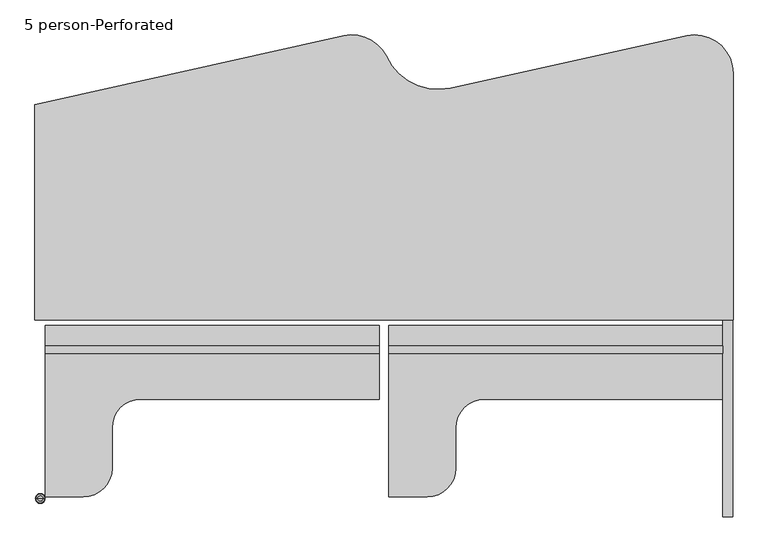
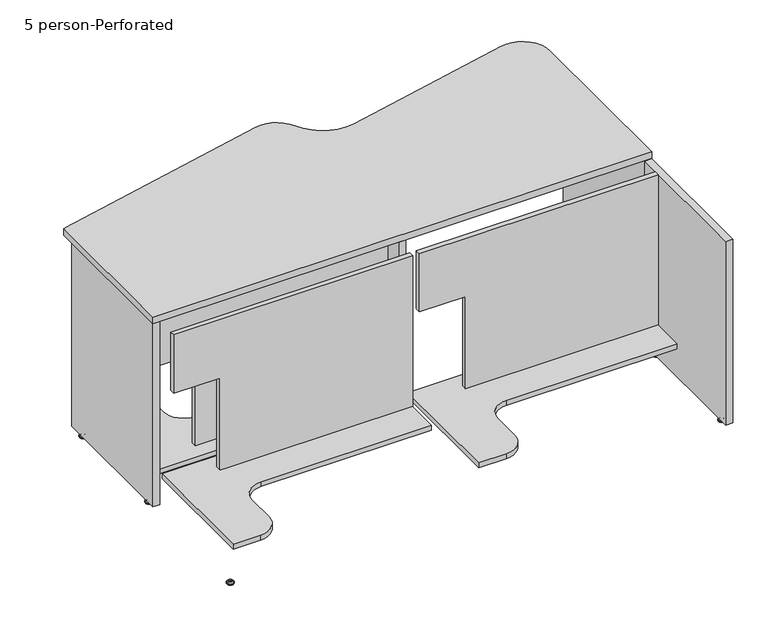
"""IFC4 building model written with IfcOpenShell, lengths in millimetres: furniture geometry, Nova Solutions - Collaboration Table - Keystone_4-5 person : 5 person-Perforated."""

from ifc_helpers import new_model, si_unit, point, frame, frame_2d, origin, place, context, project, spatial, polyline, circle_curve, ellipse_curve, trimmed, segment, composite_curve, outline, extrude, source, transform, mapped, element, save
from ifc_brep_helpers import plane_surface, cylinder_surface, revolved_surface, advanced_brep


def furniture_5_person_perforated_196aff89(model_context):
    return source(origin(), model_context, "Body", "SolidModel", [
        advanced_brep(
        [(916.6776506, 474.3309375, 11.1125), (910.0, 474.3309375, 11.1125), (903.3223494, 474.3309375, 11.1125), (916.6776506, 474.3309375, 9.525), (903.3223494, 474.3309375, 9.525), (921.8855135, 474.3309375, 4.7748687), (898.1144865, 474.3309375, 4.7748687), (922.7466506, 474.3309375, 3.989419), (897.2533494, 474.3309375, 3.989419), (922.7466506, 474.3309375, 3.175), (897.2533494, 474.3309375, 3.175), (921.8959119, 474.3309375, 0.0), (898.1040881, 474.3309375, 0.0), (910.0, 474.3309375, 0.0)],
        [
            (0, 1),
            (1, 2),
            (2, 0, circle_curve(frame((910.0, 474.3309375, 11.1125), z_axis=(0.0, 0.0, 1.0), x_axis=(-1.0, 0.0, 0.0)), 6.6776506)),
            (0, 2, circle_curve(frame((910.0, 474.3309375, 11.1125), z_axis=(0.0, 0.0, 1.0), x_axis=(-1.0, 0.0, 0.0)), 6.6776506)),
            (3, 0),
            (2, 4),
            (4, 3, circle_curve(frame((910.0, 474.3309375, 9.525), z_axis=(0.0, 0.0, 1.0), x_axis=(-1.0, 0.0, 0.0)), 6.6776506)),
            (3, 4, circle_curve(frame((910.0, 474.3309375, 9.525), z_axis=(0.0, 0.0, 1.0), x_axis=(-1.0, 0.0, 0.0)), 6.6776506)),
            (5, 3, circle_curve(frame((922.9320627, 474.3309375, 11.1521822), z_axis=(0.0, 1.0, 0.0), x_axis=(-1.0, 0.0, 0.0)), 6.462615)),
            (4, 6, circle_curve(frame((897.0679373, 474.3309375, 11.1521822), z_axis=(0.0, 1.0, 0.0), x_axis=(1.0, 0.0, 0.0)), 6.462615)),
            (6, 5, circle_curve(frame((910.0, 474.3309375, 4.7748687), z_axis=(0.0, 0.0, 1.0), x_axis=(-1.0, 0.0, 0.0)), 11.8855135)),
            (5, 6, circle_curve(frame((910.0, 474.3309375, 4.7748687), z_axis=(0.0, 0.0, 1.0), x_axis=(-1.0, 0.0, 0.0)), 11.8855135)),
            (7, 5, circle_curve(frame((921.7124632, 474.3309375, 3.7203591), z_axis=(0.0, -1.0, 0.0), x_axis=(-1.0, 0.0, 0.0)), 1.0686145)),
            (6, 8, circle_curve(frame((898.2875368, 474.3309375, 3.7203591), z_axis=(0.0, -1.0, 0.0), x_axis=(1.0, 0.0, 0.0)), 1.0686145)),
            (8, 7, circle_curve(frame((910.0, 474.3309375, 3.989419), z_axis=(0.0, 0.0, 1.0), x_axis=(-1.0, 0.0, 0.0)), 12.7466506)),
            (7, 8, circle_curve(frame((910.0, 474.3309375, 3.989419), z_axis=(0.0, 0.0, 1.0), x_axis=(-1.0, 0.0, 0.0)), 12.7466506)),
            (9, 7),
            (8, 10),
            (10, 9, circle_curve(frame((910.0, 474.3309375, 3.175), z_axis=(0.0, 0.0, 1.0), x_axis=(-1.0, 0.0, 0.0)), 12.7466506)),
            (9, 10, circle_curve(frame((910.0, 474.3309375, 3.175), z_axis=(0.0, 0.0, 1.0), x_axis=(-1.0, 0.0, 0.0)), 12.7466506)),
            (11, 9),
            (10, 12),
            (12, 11, circle_curve(frame((910.0, 474.3309375, 0.0), z_axis=(0.0, 0.0, 1.0), x_axis=(-1.0, 0.0, 0.0)), 11.8959119)),
            (11, 12, circle_curve(frame((910.0, 474.3309375, 0.0), z_axis=(0.0, 0.0, 1.0), x_axis=(-1.0, 0.0, 0.0)), 11.8959119)),
            (13, 11),
            (12, 13),
        ],
        [
            plane_surface(frame((910.0, 474.3309375, 11.1125), z_axis=(0.0, 0.0, 1.0), x_axis=(-1.0, 0.0, 0.0))),
            cylinder_surface(frame((910.0, 474.3309375, 43.2095994), z_axis=(0.0, 0.0, -1.0), x_axis=(-1.0, 0.0, 0.0)), 6.6776506),
            revolved_surface(trimmed(ellipse_curve(frame((897.0679373, 474.3309375, 11.1521822), z_axis=(0.0, 1.0, 0.0), x_axis=(1.0, 0.0, 0.0)), 6.462615, 6.462615), [point((903.3223494, 474.3309375, 9.525))], [point((898.1144865, 474.3309375, 4.7748687))], True, "CARTESIAN"), (910.0, 474.3309375, 43.2095994), (0.0, 0.0, -1.0)),
            revolved_surface(trimmed(ellipse_curve(frame((898.2875368, 474.3309375, 3.7203591), z_axis=(0.0, -1.0, 0.0), x_axis=(1.0, 0.0, 0.0)), 1.0686145, 1.0686145), [point((898.1144865, 474.3309375, 4.7748687))], [point((897.2533494, 474.3309375, 3.989419))], True, "CARTESIAN"), (910.0, 474.3309375, 43.2095994), (0.0, 0.0, -1.0)),
            cylinder_surface(frame((910.0, 474.3309375, 43.2095994), z_axis=(0.0, 0.0, -1.0), x_axis=(-1.0, 0.0, 0.0)), 12.7466506),
            revolved_surface(polyline([(897.2533494, 474.3309375, 3.175), (898.1040881, 474.3309375, 0.0)]), (910.0, 474.3309375, 43.2095994), (0.0, 0.0, -1.0)),
            plane_surface(frame((910.0, 474.3309375, 0.0), z_axis=(0.0, 0.0, -1.0), x_axis=(-1.0, 0.0, 0.0))),
        ],
        [
            (0, [[1, 2, 3]]),
            (0, [[-2, -1, 4]]),
            (1, [[5, -3, 6, 7]]),
            (1, [[-6, -4, -5, 8]]),
            (2, [[9, -7, 10, 11]]),
            (2, [[-10, -8, -9, 12]]),
            (3, [[13, -11, 14, 15]]),
            (3, [[-14, -12, -13, 16]]),
            (4, [[17, -15, 18, 19]]),
            (4, [[-18, -16, -17, 20]]),
            (5, [[21, -19, 22, 23]]),
            (5, [[-22, -20, -21, 24]]),
            (6, [[25, -23, 26]]),
            (6, [[-26, -24, -25]]),
        ],
    ),
        advanced_brep(
        [(916.6776506, 50.3590625, 11.1125), (910.0, 50.3590625, 11.1125), (903.3223494, 50.3590625, 11.1125), (916.6776506, 50.3590625, 9.525), (903.3223494, 50.3590625, 9.525), (921.8855135, 50.3590625, 4.7748687), (898.1144865, 50.3590625, 4.7748687), (922.7466506, 50.3590625, 3.989419), (897.2533494, 50.3590625, 3.989419), (922.7466506, 50.3590625, 3.175), (897.2533494, 50.3590625, 3.175), (921.8959119, 50.3590625, 0.0), (898.1040881, 50.3590625, 0.0), (910.0, 50.3590625, 0.0)],
        [
            (0, 1),
            (1, 2),
            (2, 0, circle_curve(frame((910.0, 50.3590625, 11.1125), z_axis=(0.0, 0.0, 1.0), x_axis=(-1.0, 0.0, 0.0)), 6.6776506)),
            (0, 2, circle_curve(frame((910.0, 50.3590625, 11.1125), z_axis=(0.0, 0.0, 1.0), x_axis=(-1.0, 0.0, 0.0)), 6.6776506)),
            (3, 0),
            (2, 4),
            (4, 3, circle_curve(frame((910.0, 50.3590625, 9.525), z_axis=(0.0, 0.0, 1.0), x_axis=(-1.0, 0.0, 0.0)), 6.6776506)),
            (3, 4, circle_curve(frame((910.0, 50.3590625, 9.525), z_axis=(0.0, 0.0, 1.0), x_axis=(-1.0, 0.0, 0.0)), 6.6776506)),
            (5, 3, circle_curve(frame((922.9320627, 50.3590625, 11.1521822), z_axis=(0.0, 1.0, 0.0), x_axis=(-1.0, 0.0, 0.0)), 6.462615)),
            (4, 6, circle_curve(frame((897.0679373, 50.3590625, 11.1521822), z_axis=(0.0, 1.0, 0.0), x_axis=(1.0, 0.0, 0.0)), 6.462615)),
            (6, 5, circle_curve(frame((910.0, 50.3590625, 4.7748687), z_axis=(0.0, 0.0, 1.0), x_axis=(-1.0, 0.0, 0.0)), 11.8855135)),
            (5, 6, circle_curve(frame((910.0, 50.3590625, 4.7748687), z_axis=(0.0, 0.0, 1.0), x_axis=(-1.0, 0.0, 0.0)), 11.8855135)),
            (7, 5, circle_curve(frame((921.7124632, 50.3590625, 3.7203591), z_axis=(0.0, -1.0, 0.0), x_axis=(-1.0, 0.0, 0.0)), 1.0686145)),
            (6, 8, circle_curve(frame((898.2875368, 50.3590625, 3.7203591), z_axis=(0.0, -1.0, 0.0), x_axis=(1.0, 0.0, 0.0)), 1.0686145)),
            (8, 7, circle_curve(frame((910.0, 50.3590625, 3.989419), z_axis=(0.0, 0.0, 1.0), x_axis=(-1.0, 0.0, 0.0)), 12.7466506)),
            (7, 8, circle_curve(frame((910.0, 50.3590625, 3.989419), z_axis=(0.0, 0.0, 1.0), x_axis=(-1.0, 0.0, 0.0)), 12.7466506)),
            (9, 7),
            (8, 10),
            (10, 9, circle_curve(frame((910.0, 50.3590625, 3.175), z_axis=(0.0, 0.0, 1.0), x_axis=(-1.0, 0.0, 0.0)), 12.7466506)),
            (9, 10, circle_curve(frame((910.0, 50.3590625, 3.175), z_axis=(0.0, 0.0, 1.0), x_axis=(-1.0, 0.0, 0.0)), 12.7466506)),
            (11, 9),
            (10, 12),
            (12, 11, circle_curve(frame((910.0, 50.3590625, 0.0), z_axis=(0.0, 0.0, 1.0), x_axis=(-1.0, 0.0, 0.0)), 11.8959119)),
            (11, 12, circle_curve(frame((910.0, 50.3590625, 0.0), z_axis=(0.0, 0.0, 1.0), x_axis=(-1.0, 0.0, 0.0)), 11.8959119)),
            (13, 11),
            (12, 13),
        ],
        [
            plane_surface(frame((910.0, 50.3590625, 11.1125), z_axis=(0.0, 0.0, 1.0), x_axis=(-1.0, 0.0, 0.0))),
            cylinder_surface(frame((910.0, 50.3590625, 43.2095994), z_axis=(0.0, 0.0, -1.0), x_axis=(-1.0, 0.0, 0.0)), 6.6776506),
            revolved_surface(trimmed(ellipse_curve(frame((897.0679373, 50.3590625, 11.1521822), z_axis=(0.0, 1.0, 0.0), x_axis=(1.0, 0.0, 0.0)), 6.462615, 6.462615), [point((903.3223494, 50.3590625, 9.525))], [point((898.1144865, 50.3590625, 4.7748687))], True, "CARTESIAN"), (910.0, 50.3590625, 43.2095994), (0.0, 0.0, -1.0)),
            revolved_surface(trimmed(ellipse_curve(frame((898.2875368, 50.3590625, 3.7203591), z_axis=(0.0, -1.0, 0.0), x_axis=(1.0, 0.0, 0.0)), 1.0686145, 1.0686145), [point((898.1144865, 50.3590625, 4.7748687))], [point((897.2533494, 50.3590625, 3.989419))], True, "CARTESIAN"), (910.0, 50.3590625, 43.2095994), (0.0, 0.0, -1.0)),
            cylinder_surface(frame((910.0, 50.3590625, 43.2095994), z_axis=(0.0, 0.0, -1.0), x_axis=(-1.0, 0.0, 0.0)), 12.7466506),
            revolved_surface(polyline([(897.2533494, 50.3590625, 3.175), (898.1040881, 50.3590625, 0.0)]), (910.0, 50.3590625, 43.2095994), (0.0, 0.0, -1.0)),
            plane_surface(frame((910.0, 50.3590625, 0.0), z_axis=(0.0, 0.0, -1.0), x_axis=(-1.0, 0.0, 0.0))),
        ],
        [
            (0, [[1, 2, 3]]),
            (0, [[-2, -1, 4]]),
            (1, [[5, -3, 6, 7]]),
            (1, [[-6, -4, -5, 8]]),
            (2, [[9, -7, 10, 11]]),
            (2, [[-10, -8, -9, 12]]),
            (3, [[13, -11, 14, 15]]),
            (3, [[-14, -12, -13, 16]]),
            (4, [[17, -15, 18, 19]]),
            (4, [[-18, -16, -17, 20]]),
            (5, [[21, -19, 22, 23]]),
            (5, [[-22, -20, -21, 24]]),
            (6, [[25, -23, 26]]),
            (6, [[-26, -24, -25]]),
        ],
    ),
        extrude(outline(polyline([(922.85, 1.345), (897.15, 1.345), (897.15, 523.345), (922.85, 523.345), (922.85, 1.345)])), frame((0.0, 0.0, 15.6), z_axis=(0.0, 0.0, 1.0), x_axis=(1.0, 0.0, 0.0)), (0.0, 0.0, 1.0), 720.7),
        extrude(outline(polyline([(736.3, -15.65), (736.3, -902.85), (507.4, -902.85), (507.4, -731.85), (145.5, -731.85), (145.5, -15.65), (736.3, -15.65)])), frame((0.0, 69.345, 0.0), z_axis=(0.0, 1.0, 0.0), x_axis=(0.0, 0.0, 1.0)), (0.0, 0.0, 1.0), 19.2),
        extrude(outline(composite_curve([segment(polyline([(-902.85, 469.9075), (-801.25, 469.9075)]), True, "CONTINUOUS"), segment(trimmed(circle_curve(frame_2d((-801.25, 393.7075)), 76.2), [point((-801.25, 469.9075))], [point((-725.05, 393.7075))], False, "CARTESIAN"), True, "CONTINUOUS"), segment(polyline([(-725.05, 393.7075), (-725.05, 286.545)]), True, "CONTINUOUS"), segment(trimmed(circle_curve(frame_2d((-648.85, 286.545)), 76.2), [point((-725.05, 286.545))], [point((-648.85, 210.345))], True, "CARTESIAN"), True, "CONTINUOUS"), segment(polyline([(-648.85, 210.345), (-15.65, 210.345), (-15.65, 14.045), (-902.85, 14.045), (-902.85, 469.9075)]), True, "CONTINUOUS")], self_intersect=False)), frame((0.0, 0.0, 126.3), z_axis=(0.0, 0.0, 1.0), x_axis=(1.0, 0.0, 0.0)), (0.0, 0.0, 1.0), 19.2),
        advanced_brep(
        [(-922.3776506, 474.3309375, 11.1125), (-909.0223494, 474.3309375, 11.1125), (-915.7, 474.3309375, 11.1125), (-922.3776506, 474.3309375, 9.525), (-909.0223494, 474.3309375, 9.525), (-927.5855135, 474.3309375, 4.7748687), (-903.8144865, 474.3309375, 4.7748687), (-928.4466506, 474.3309375, 3.989419), (-902.9533494, 474.3309375, 3.989419), (-928.4466506, 474.3309375, 3.175), (-902.9533494, 474.3309375, 3.175), (-927.5959119, 474.3309375, 0.0), (-903.8040881, 474.3309375, 0.0), (-915.7, 474.3309375, 0.0)],
        [
            (0, 1, circle_curve(frame((-915.7, 474.3309375, 11.1125), z_axis=(0.0, 0.0, 1.0), x_axis=(1.0, 0.0, 0.0)), 6.6776506)),
            (1, 2),
            (2, 0),
            (1, 0, circle_curve(frame((-915.7, 474.3309375, 11.1125), z_axis=(0.0, 0.0, 1.0), x_axis=(1.0, 0.0, 0.0)), 6.6776506)),
            (3, 4, circle_curve(frame((-915.7, 474.3309375, 9.525), z_axis=(0.0, 0.0, 1.0), x_axis=(1.0, 0.0, 0.0)), 6.6776506)),
            (4, 1),
            (0, 3),
            (4, 3, circle_curve(frame((-915.7, 474.3309375, 9.525), z_axis=(0.0, 0.0, 1.0), x_axis=(1.0, 0.0, 0.0)), 6.6776506)),
            (5, 6, circle_curve(frame((-915.7, 474.3309375, 4.7748687), z_axis=(0.0, 0.0, 1.0), x_axis=(1.0, 0.0, 0.0)), 11.8855135)),
            (6, 4, circle_curve(frame((-902.7679373, 474.3309375, 11.1521822), z_axis=(0.0, 1.0, 0.0), x_axis=(-1.0, 0.0, 0.0)), 6.462615)),
            (3, 5, circle_curve(frame((-928.6320627, 474.3309375, 11.1521822), z_axis=(0.0, 1.0, 0.0), x_axis=(1.0, 0.0, 0.0)), 6.462615)),
            (6, 5, circle_curve(frame((-915.7, 474.3309375, 4.7748687), z_axis=(0.0, 0.0, 1.0), x_axis=(1.0, 0.0, 0.0)), 11.8855135)),
            (7, 8, circle_curve(frame((-915.7, 474.3309375, 3.989419), z_axis=(0.0, 0.0, 1.0), x_axis=(1.0, 0.0, 0.0)), 12.7466506)),
            (8, 6, circle_curve(frame((-903.9875368, 474.3309375, 3.7203591), z_axis=(0.0, -1.0, 0.0), x_axis=(-1.0, 0.0, 0.0)), 1.0686145)),
            (5, 7, circle_curve(frame((-927.4124632, 474.3309375, 3.7203591), z_axis=(0.0, -1.0, 0.0), x_axis=(1.0, 0.0, 0.0)), 1.0686145)),
            (8, 7, circle_curve(frame((-915.7, 474.3309375, 3.989419), z_axis=(0.0, 0.0, 1.0), x_axis=(1.0, 0.0, 0.0)), 12.7466506)),
            (9, 10, circle_curve(frame((-915.7, 474.3309375, 3.175), z_axis=(0.0, 0.0, 1.0), x_axis=(1.0, 0.0, 0.0)), 12.7466506)),
            (10, 8),
            (7, 9),
            (10, 9, circle_curve(frame((-915.7, 474.3309375, 3.175), z_axis=(0.0, 0.0, 1.0), x_axis=(1.0, 0.0, 0.0)), 12.7466506)),
            (11, 12, circle_curve(frame((-915.7, 474.3309375, 0.0), z_axis=(0.0, 0.0, 1.0), x_axis=(1.0, 0.0, 0.0)), 11.8959119)),
            (12, 10),
            (9, 11),
            (12, 11, circle_curve(frame((-915.7, 474.3309375, 0.0), z_axis=(0.0, 0.0, 1.0), x_axis=(1.0, 0.0, 0.0)), 11.8959119)),
            (13, 12),
            (11, 13),
        ],
        [
            plane_surface(frame((-915.7, 474.3309375, 11.1125), z_axis=(0.0, 0.0, 1.0), x_axis=(1.0, 0.0, 0.0))),
            cylinder_surface(frame((-915.7, 474.3309375, 43.2095994), z_axis=(0.0, 0.0, -1.0), x_axis=(1.0, 0.0, 0.0)), 6.6776506),
            revolved_surface(trimmed(ellipse_curve(frame((-902.7679373, 474.3309375, 11.1521822), z_axis=(0.0, -1.0, 0.0), x_axis=(-1.0, 0.0, 0.0)), 6.462615, 6.462615), [point((-909.0223494, 474.3309375, 9.525))], [point((-903.8144865, 474.3309375, 4.7748687))], True, "CARTESIAN"), (-915.7, 474.3309375, 43.2095994), (0.0, 0.0, -1.0)),
            revolved_surface(trimmed(ellipse_curve(frame((-903.9875368, 474.3309375, 3.7203591), z_axis=(0.0, 1.0, 0.0), x_axis=(-1.0, 0.0, 0.0)), 1.0686145, 1.0686145), [point((-903.8144865, 474.3309375, 4.7748687))], [point((-902.9533494, 474.3309375, 3.989419))], True, "CARTESIAN"), (-915.7, 474.3309375, 43.2095994), (0.0, 0.0, -1.0)),
            cylinder_surface(frame((-915.7, 474.3309375, 43.2095994), z_axis=(0.0, 0.0, -1.0), x_axis=(1.0, 0.0, 0.0)), 12.7466506),
            revolved_surface(polyline([(-902.9533494, 474.3309375, 3.175), (-903.8040881, 474.3309375, 0.0)]), (-915.7, 474.3309375, 43.2095994), (0.0, 0.0, -1.0)),
            plane_surface(frame((-915.7, 474.3309375, 0.0), z_axis=(0.0, 0.0, -1.0), x_axis=(1.0, 0.0, 0.0))),
        ],
        [
            (0, [[1, 2, 3]]),
            (0, [[4, -3, -2]]),
            (1, [[5, 6, -1, 7]]),
            (1, [[8, -7, -4, -6]]),
            (2, [[9, 10, -5, 11]]),
            (2, [[12, -11, -8, -10]]),
            (3, [[13, 14, -9, 15]]),
            (3, [[16, -15, -12, -14]]),
            (4, [[17, 18, -13, 19]]),
            (4, [[20, -19, -16, -18]]),
            (5, [[21, 22, -17, 23]]),
            (5, [[24, -23, -20, -22]]),
            (6, [[25, -21, 26]]),
            (6, [[-26, -24, -25]]),
        ],
    ),
        advanced_brep(
        [(-922.3776506, 50.3590625, 11.1125), (-909.0223494, 50.3590625, 11.1125), (-915.7, 50.3590625, 11.1125), (-922.3776506, 50.3590625, 9.525), (-909.0223494, 50.3590625, 9.525), (-927.5855135, 50.3590625, 4.7748687), (-903.8144865, 50.3590625, 4.7748687), (-928.4466506, 50.3590625, 3.989419), (-902.9533494, 50.3590625, 3.989419), (-928.4466506, 50.3590625, 3.175), (-902.9533494, 50.3590625, 3.175), (-927.5959119, 50.3590625, 0.0), (-903.8040881, 50.3590625, 0.0), (-915.7, 50.3590625, 0.0)],
        [
            (0, 1, circle_curve(frame((-915.7, 50.3590625, 11.1125), z_axis=(0.0, 0.0, 1.0), x_axis=(1.0, 0.0, 0.0)), 6.6776506)),
            (1, 2),
            (2, 0),
            (1, 0, circle_curve(frame((-915.7, 50.3590625, 11.1125), z_axis=(0.0, 0.0, 1.0), x_axis=(1.0, 0.0, 0.0)), 6.6776506)),
            (3, 4, circle_curve(frame((-915.7, 50.3590625, 9.525), z_axis=(0.0, 0.0, 1.0), x_axis=(1.0, 0.0, 0.0)), 6.6776506)),
            (4, 1),
            (0, 3),
            (4, 3, circle_curve(frame((-915.7, 50.3590625, 9.525), z_axis=(0.0, 0.0, 1.0), x_axis=(1.0, 0.0, 0.0)), 6.6776506)),
            (5, 6, circle_curve(frame((-915.7, 50.3590625, 4.7748687), z_axis=(0.0, 0.0, 1.0), x_axis=(1.0, 0.0, 0.0)), 11.8855135)),
            (6, 4, circle_curve(frame((-902.7679373, 50.3590625, 11.1521822), z_axis=(0.0, 1.0, 0.0), x_axis=(-1.0, 0.0, 0.0)), 6.462615)),
            (3, 5, circle_curve(frame((-928.6320627, 50.3590625, 11.1521822), z_axis=(0.0, 1.0, 0.0), x_axis=(1.0, 0.0, 0.0)), 6.462615)),
            (6, 5, circle_curve(frame((-915.7, 50.3590625, 4.7748687), z_axis=(0.0, 0.0, 1.0), x_axis=(1.0, 0.0, 0.0)), 11.8855135)),
            (7, 8, circle_curve(frame((-915.7, 50.3590625, 3.989419), z_axis=(0.0, 0.0, 1.0), x_axis=(1.0, 0.0, 0.0)), 12.7466506)),
            (8, 6, circle_curve(frame((-903.9875368, 50.3590625, 3.7203591), z_axis=(0.0, -1.0, 0.0), x_axis=(-1.0, 0.0, 0.0)), 1.0686145)),
            (5, 7, circle_curve(frame((-927.4124632, 50.3590625, 3.7203591), z_axis=(0.0, -1.0, 0.0), x_axis=(1.0, 0.0, 0.0)), 1.0686145)),
            (8, 7, circle_curve(frame((-915.7, 50.3590625, 3.989419), z_axis=(0.0, 0.0, 1.0), x_axis=(1.0, 0.0, 0.0)), 12.7466506)),
            (9, 10, circle_curve(frame((-915.7, 50.3590625, 3.175), z_axis=(0.0, 0.0, 1.0), x_axis=(1.0, 0.0, 0.0)), 12.7466506)),
            (10, 8),
            (7, 9),
            (10, 9, circle_curve(frame((-915.7, 50.3590625, 3.175), z_axis=(0.0, 0.0, 1.0), x_axis=(1.0, 0.0, 0.0)), 12.7466506)),
            (11, 12, circle_curve(frame((-915.7, 50.3590625, 0.0), z_axis=(0.0, 0.0, 1.0), x_axis=(1.0, 0.0, 0.0)), 11.8959119)),
            (12, 10),
            (9, 11),
            (12, 11, circle_curve(frame((-915.7, 50.3590625, 0.0), z_axis=(0.0, 0.0, 1.0), x_axis=(1.0, 0.0, 0.0)), 11.8959119)),
            (13, 12),
            (11, 13),
        ],
        [
            plane_surface(frame((-915.7, 50.3590625, 11.1125), z_axis=(0.0, 0.0, 1.0), x_axis=(1.0, 0.0, 0.0))),
            cylinder_surface(frame((-915.7, 50.3590625, 43.2095994), z_axis=(0.0, 0.0, -1.0), x_axis=(1.0, 0.0, 0.0)), 6.6776506),
            revolved_surface(trimmed(ellipse_curve(frame((-902.7679373, 50.3590625, 11.1521822), z_axis=(0.0, -1.0, 0.0), x_axis=(-1.0, 0.0, 0.0)), 6.462615, 6.462615), [point((-909.0223494, 50.3590625, 9.525))], [point((-903.8144865, 50.3590625, 4.7748687))], True, "CARTESIAN"), (-915.7, 50.3590625, 43.2095994), (0.0, 0.0, -1.0)),
            revolved_surface(trimmed(ellipse_curve(frame((-903.9875368, 50.3590625, 3.7203591), z_axis=(0.0, 1.0, 0.0), x_axis=(-1.0, 0.0, 0.0)), 1.0686145, 1.0686145), [point((-903.8144865, 50.3590625, 4.7748687))], [point((-902.9533494, 50.3590625, 3.989419))], True, "CARTESIAN"), (-915.7, 50.3590625, 43.2095994), (0.0, 0.0, -1.0)),
            cylinder_surface(frame((-915.7, 50.3590625, 43.2095994), z_axis=(0.0, 0.0, -1.0), x_axis=(1.0, 0.0, 0.0)), 12.7466506),
            revolved_surface(polyline([(-902.9533494, 50.3590625, 3.175), (-903.8040881, 50.3590625, 0.0)]), (-915.7, 50.3590625, 43.2095994), (0.0, 0.0, -1.0)),
            plane_surface(frame((-915.7, 50.3590625, 0.0), z_axis=(0.0, 0.0, -1.0), x_axis=(1.0, 0.0, 0.0))),
        ],
        [
            (0, [[1, 2, 3]]),
            (0, [[4, -3, -2]]),
            (1, [[5, 6, -1, 7]]),
            (1, [[8, -7, -4, -6]]),
            (2, [[9, 10, -5, 11]]),
            (2, [[12, -11, -8, -10]]),
            (3, [[13, 14, -9, 15]]),
            (3, [[16, -15, -12, -14]]),
            (4, [[17, 18, -13, 19]]),
            (4, [[20, -19, -16, -18]]),
            (5, [[21, 22, -17, 23]]),
            (5, [[24, -23, -20, -22]]),
            (6, [[25, -21, 26]]),
            (6, [[-26, -24, -25]]),
        ],
    ),
        extrude(outline(polyline([(-928.55, 1.345), (-928.55, 523.345), (-902.85, 523.345), (-902.85, 1.345), (-928.55, 1.345)])), frame((0.0, 0.0, 15.6), z_axis=(0.0, 0.0, 1.0), x_axis=(1.0, 0.0, 0.0)), (0.0, 0.0, 1.0), 720.7),
        advanced_brep(
        [(3.8776506, 474.3309375, 11.1125), (-2.8, 474.3309375, 11.1125), (-9.4776506, 474.3309375, 11.1125), (3.8776506, 474.3309375, 9.525), (-9.4776506, 474.3309375, 9.525), (9.0855135, 474.3309375, 4.7748687), (-14.6855135, 474.3309375, 4.7748687), (9.9466506, 474.3309375, 3.989419), (-15.5466506, 474.3309375, 3.989419), (9.9466506, 474.3309375, 3.175), (-15.5466506, 474.3309375, 3.175), (9.0959119, 474.3309375, 0.0), (-14.6959119, 474.3309375, 0.0), (-2.8, 474.3309375, 0.0)],
        [
            (0, 1),
            (1, 2),
            (2, 0, circle_curve(frame((-2.8, 474.3309375, 11.1125), z_axis=(0.0, 0.0, 1.0), x_axis=(-1.0, 0.0, 0.0)), 6.6776506)),
            (0, 2, circle_curve(frame((-2.8, 474.3309375, 11.1125), z_axis=(0.0, 0.0, 1.0), x_axis=(-1.0, 0.0, 0.0)), 6.6776506)),
            (3, 0),
            (2, 4),
            (4, 3, circle_curve(frame((-2.8, 474.3309375, 9.525), z_axis=(0.0, 0.0, 1.0), x_axis=(-1.0, 0.0, 0.0)), 6.6776506)),
            (3, 4, circle_curve(frame((-2.8, 474.3309375, 9.525), z_axis=(0.0, 0.0, 1.0), x_axis=(-1.0, 0.0, 0.0)), 6.6776506)),
            (5, 3, circle_curve(frame((10.1320627, 474.3309375, 11.1521822), z_axis=(0.0, 1.0, 0.0), x_axis=(-1.0, 0.0, 0.0)), 6.462615)),
            (4, 6, circle_curve(frame((-15.7320627, 474.3309375, 11.1521822), z_axis=(0.0, 1.0, 0.0), x_axis=(1.0, 0.0, 0.0)), 6.462615)),
            (6, 5, circle_curve(frame((-2.8, 474.3309375, 4.7748687), z_axis=(0.0, 0.0, 1.0), x_axis=(-1.0, 0.0, 0.0)), 11.8855135)),
            (5, 6, circle_curve(frame((-2.8, 474.3309375, 4.7748687), z_axis=(0.0, 0.0, 1.0), x_axis=(-1.0, 0.0, 0.0)), 11.8855135)),
            (7, 5, circle_curve(frame((8.9124632, 474.3309375, 3.7203591), z_axis=(0.0, -1.0, 0.0), x_axis=(-1.0, 0.0, 0.0)), 1.0686145)),
            (6, 8, circle_curve(frame((-14.5124632, 474.3309375, 3.7203591), z_axis=(0.0, -1.0, 0.0), x_axis=(1.0, 0.0, 0.0)), 1.0686145)),
            (8, 7, circle_curve(frame((-2.8, 474.3309375, 3.989419), z_axis=(0.0, 0.0, 1.0), x_axis=(-1.0, 0.0, 0.0)), 12.7466506)),
            (7, 8, circle_curve(frame((-2.8, 474.3309375, 3.989419), z_axis=(0.0, 0.0, 1.0), x_axis=(-1.0, 0.0, 0.0)), 12.7466506)),
            (9, 7),
            (8, 10),
            (10, 9, circle_curve(frame((-2.8, 474.3309375, 3.175), z_axis=(0.0, 0.0, 1.0), x_axis=(-1.0, 0.0, 0.0)), 12.7466506)),
            (9, 10, circle_curve(frame((-2.8, 474.3309375, 3.175), z_axis=(0.0, 0.0, 1.0), x_axis=(-1.0, 0.0, 0.0)), 12.7466506)),
            (11, 9),
            (10, 12),
            (12, 11, circle_curve(frame((-2.8, 474.3309375, 0.0), z_axis=(0.0, 0.0, 1.0), x_axis=(-1.0, 0.0, 0.0)), 11.8959119)),
            (11, 12, circle_curve(frame((-2.8, 474.3309375, 0.0), z_axis=(0.0, 0.0, 1.0), x_axis=(-1.0, 0.0, 0.0)), 11.8959119)),
            (13, 11),
            (12, 13),
        ],
        [
            plane_surface(frame((-2.8, 474.3309375, 11.1125), z_axis=(0.0, 0.0, 1.0), x_axis=(-1.0, 0.0, 0.0))),
            cylinder_surface(frame((-2.8, 474.3309375, 43.2095994), z_axis=(0.0, 0.0, -1.0), x_axis=(-1.0, 0.0, 0.0)), 6.6776506),
            revolved_surface(trimmed(ellipse_curve(frame((-15.7320627, 474.3309375, 11.1521822), z_axis=(0.0, 1.0, 0.0), x_axis=(1.0, 0.0, 0.0)), 6.462615, 6.462615), [point((-9.4776506, 474.3309375, 9.525))], [point((-14.6855135, 474.3309375, 4.7748687))], True, "CARTESIAN"), (-2.8, 474.3309375, 43.2095994), (0.0, 0.0, -1.0)),
            revolved_surface(trimmed(ellipse_curve(frame((-14.5124632, 474.3309375, 3.7203591), z_axis=(0.0, -1.0, 0.0), x_axis=(1.0, 0.0, 0.0)), 1.0686145, 1.0686145), [point((-14.6855135, 474.3309375, 4.7748687))], [point((-15.5466506, 474.3309375, 3.989419))], True, "CARTESIAN"), (-2.8, 474.3309375, 43.2095994), (0.0, 0.0, -1.0)),
            cylinder_surface(frame((-2.8, 474.3309375, 43.2095994), z_axis=(0.0, 0.0, -1.0), x_axis=(-1.0, 0.0, 0.0)), 12.7466506),
            revolved_surface(polyline([(-15.5466506, 474.3309375, 3.175), (-14.6959119, 474.3309375, 0.0)]), (-2.8, 474.3309375, 43.2095994), (0.0, 0.0, -1.0)),
            plane_surface(frame((-2.8, 474.3309375, 0.0), z_axis=(0.0, 0.0, -1.0), x_axis=(-1.0, 0.0, 0.0))),
        ],
        [
            (0, [[1, 2, 3]]),
            (0, [[-2, -1, 4]]),
            (1, [[5, -3, 6, 7]]),
            (1, [[-6, -4, -5, 8]]),
            (2, [[9, -7, 10, 11]]),
            (2, [[-10, -8, -9, 12]]),
            (3, [[13, -11, 14, 15]]),
            (3, [[-14, -12, -13, 16]]),
            (4, [[17, -15, 18, 19]]),
            (4, [[-18, -16, -17, 20]]),
            (5, [[21, -19, 22, 23]]),
            (5, [[-22, -20, -21, 24]]),
            (6, [[25, -23, 26]]),
            (6, [[-26, -24, -25]]),
        ],
    ),
        advanced_brep(
        [(3.8776506, 50.3590625, 11.1125), (-2.8, 50.3590625, 11.1125), (-9.4776506, 50.3590625, 11.1125), (3.8776506, 50.3590625, 9.525), (-9.4776506, 50.3590625, 9.525), (9.0855135, 50.3590625, 4.7748687), (-14.6855135, 50.3590625, 4.7748687), (9.9466506, 50.3590625, 3.989419), (-15.5466506, 50.3590625, 3.989419), (9.9466506, 50.3590625, 3.175), (-15.5466506, 50.3590625, 3.175), (9.0959119, 50.3590625, 0.0), (-14.6959119, 50.3590625, 0.0), (-2.8, 50.3590625, 0.0)],
        [
            (0, 1),
            (1, 2),
            (2, 0, circle_curve(frame((-2.8, 50.3590625, 11.1125), z_axis=(0.0, 0.0, 1.0), x_axis=(-1.0, 0.0, 0.0)), 6.6776506)),
            (0, 2, circle_curve(frame((-2.8, 50.3590625, 11.1125), z_axis=(0.0, 0.0, 1.0), x_axis=(-1.0, 0.0, 0.0)), 6.6776506)),
            (3, 0),
            (2, 4),
            (4, 3, circle_curve(frame((-2.8, 50.3590625, 9.525), z_axis=(0.0, 0.0, 1.0), x_axis=(-1.0, 0.0, 0.0)), 6.6776506)),
            (3, 4, circle_curve(frame((-2.8, 50.3590625, 9.525), z_axis=(0.0, 0.0, 1.0), x_axis=(-1.0, 0.0, 0.0)), 6.6776506)),
            (5, 3, circle_curve(frame((10.1320627, 50.3590625, 11.1521822), z_axis=(0.0, 1.0, 0.0), x_axis=(-1.0, 0.0, 0.0)), 6.462615)),
            (4, 6, circle_curve(frame((-15.7320627, 50.3590625, 11.1521822), z_axis=(0.0, 1.0, 0.0), x_axis=(1.0, 0.0, 0.0)), 6.462615)),
            (6, 5, circle_curve(frame((-2.8, 50.3590625, 4.7748687), z_axis=(0.0, 0.0, 1.0), x_axis=(-1.0, 0.0, 0.0)), 11.8855135)),
            (5, 6, circle_curve(frame((-2.8, 50.3590625, 4.7748687), z_axis=(0.0, 0.0, 1.0), x_axis=(-1.0, 0.0, 0.0)), 11.8855135)),
            (7, 5, circle_curve(frame((8.9124632, 50.3590625, 3.7203591), z_axis=(0.0, -1.0, 0.0), x_axis=(-1.0, 0.0, 0.0)), 1.0686145)),
            (6, 8, circle_curve(frame((-14.5124632, 50.3590625, 3.7203591), z_axis=(0.0, -1.0, 0.0), x_axis=(1.0, 0.0, 0.0)), 1.0686145)),
            (8, 7, circle_curve(frame((-2.8, 50.3590625, 3.989419), z_axis=(0.0, 0.0, 1.0), x_axis=(-1.0, 0.0, 0.0)), 12.7466506)),
            (7, 8, circle_curve(frame((-2.8, 50.3590625, 3.989419), z_axis=(0.0, 0.0, 1.0), x_axis=(-1.0, 0.0, 0.0)), 12.7466506)),
            (9, 7),
            (8, 10),
            (10, 9, circle_curve(frame((-2.8, 50.3590625, 3.175), z_axis=(0.0, 0.0, 1.0), x_axis=(-1.0, 0.0, 0.0)), 12.7466506)),
            (9, 10, circle_curve(frame((-2.8, 50.3590625, 3.175), z_axis=(0.0, 0.0, 1.0), x_axis=(-1.0, 0.0, 0.0)), 12.7466506)),
            (11, 9),
            (10, 12),
            (12, 11, circle_curve(frame((-2.8, 50.3590625, 0.0), z_axis=(0.0, 0.0, 1.0), x_axis=(-1.0, 0.0, 0.0)), 11.8959119)),
            (11, 12, circle_curve(frame((-2.8, 50.3590625, 0.0), z_axis=(0.0, 0.0, 1.0), x_axis=(-1.0, 0.0, 0.0)), 11.8959119)),
            (13, 11),
            (12, 13),
        ],
        [
            plane_surface(frame((-2.8, 50.3590625, 11.1125), z_axis=(0.0, 0.0, 1.0), x_axis=(-1.0, 0.0, 0.0))),
            cylinder_surface(frame((-2.8, 50.3590625, 43.2095994), z_axis=(0.0, 0.0, -1.0), x_axis=(-1.0, 0.0, 0.0)), 6.6776506),
            revolved_surface(trimmed(ellipse_curve(frame((-15.7320627, 50.3590625, 11.1521822), z_axis=(0.0, 1.0, 0.0), x_axis=(1.0, 0.0, 0.0)), 6.462615, 6.462615), [point((-9.4776506, 50.3590625, 9.525))], [point((-14.6855135, 50.3590625, 4.7748687))], True, "CARTESIAN"), (-2.8, 50.3590625, 43.2095994), (0.0, 0.0, -1.0)),
            revolved_surface(trimmed(ellipse_curve(frame((-14.5124632, 50.3590625, 3.7203591), z_axis=(0.0, -1.0, 0.0), x_axis=(1.0, 0.0, 0.0)), 1.0686145, 1.0686145), [point((-14.6855135, 50.3590625, 4.7748687))], [point((-15.5466506, 50.3590625, 3.989419))], True, "CARTESIAN"), (-2.8, 50.3590625, 43.2095994), (0.0, 0.0, -1.0)),
            cylinder_surface(frame((-2.8, 50.3590625, 43.2095994), z_axis=(0.0, 0.0, -1.0), x_axis=(-1.0, 0.0, 0.0)), 12.7466506),
            revolved_surface(polyline([(-15.5466506, 50.3590625, 3.175), (-14.6959119, 50.3590625, 0.0)]), (-2.8, 50.3590625, 43.2095994), (0.0, 0.0, -1.0)),
            plane_surface(frame((-2.8, 50.3590625, 0.0), z_axis=(0.0, 0.0, -1.0), x_axis=(-1.0, 0.0, 0.0))),
        ],
        [
            (0, [[1, 2, 3]]),
            (0, [[-2, -1, 4]]),
            (1, [[5, -3, 6, 7]]),
            (1, [[-6, -4, -5, 8]]),
            (2, [[9, -7, 10, 11]]),
            (2, [[-10, -8, -9, 12]]),
            (3, [[13, -11, 14, 15]]),
            (3, [[-14, -12, -13, 16]]),
            (4, [[17, -15, 18, 19]]),
            (4, [[-18, -16, -17, 20]]),
            (5, [[21, -19, 22, 23]]),
            (5, [[-22, -20, -21, 24]]),
            (6, [[25, -23, 26]]),
            (6, [[-26, -24, -25]]),
        ],
    ),
        extrude(outline(polyline([(10.05, 1.345), (-15.65, 1.345), (-15.65, 523.345), (10.05, 523.345), (10.05, 1.345)])), frame((0.0, 0.0, 15.6), z_axis=(0.0, 0.0, 1.0), x_axis=(1.0, 0.0, 0.0)), (0.0, 0.0, 1.0), 720.7),
        extrude(outline(composite_curve([segment(polyline([(924.25, 0.0), (-929.988, 0.0), (-929.988, 572.7433508)]), True, "CONTINUOUS"), segment(trimmed(circle_curve(frame_2d((-904.6251452, 474.4632633)), 101.5), [point((-929.988, 572.7433508))], [point((-923.5758236, 574.1784667))], False, "CARTESIAN"), True, "CONTINUOUS"), segment(polyline([(-923.5758236, 574.1784667), (-110.0827884, 755.6229945)]), True, "CONTINUOUS"), segment(trimmed(circle_curve(frame_2d((-87.9867994, 656.5572725)), 101.5), [point((-110.0827884, 755.6229945))], [point((2.6149334, 702.3128843))], False, "CARTESIAN"), True, "CONTINUOUS"), segment(trimmed(circle_curve(frame_2d((141.2930311, 765.5121345)), 152.4), [point((2.6149334, 702.3128843))], [point((174.2784283, 616.724623))], True, "CARTESIAN"), True, "CONTINUOUS"), segment(polyline([(174.2784283, 616.724623), (800.7813792, 755.6169834)]), True, "CONTINUOUS"), segment(trimmed(circle_curve(frame_2d((822.75, 656.5229386)), 101.5), [point((800.7813792, 755.6169834))], [point((924.25, 656.5229386))], False, "CARTESIAN"), True, "CONTINUOUS"), segment(polyline([(924.25, 656.5229386), (924.25, 0.0)]), True, "CONTINUOUS")], self_intersect=False)), frame((0.0, 0.0, 736.3), z_axis=(0.0, 0.0, 1.0), x_axis=(1.0, 0.0, 0.0)), (0.0, 0.0, 1.0), 25.7),
        extrude(outline(polyline([(736.3, 897.15), (736.3, 10.05), (507.4, 10.05), (507.4, 181.05), (145.5, 181.05), (145.5, 897.15), (736.3, 897.15)])), frame((0.0, -88.545, 0.0), z_axis=(0.0, 1.0, 0.0), x_axis=(0.0, 0.0, 1.0)), (0.0, 0.0, 1.0), 19.2),
        extrude(outline(composite_curve([segment(polyline([(897.15, -14.045), (897.15, -210.345), (264.05, -210.345)]), True, "CONTINUOUS"), segment(trimmed(circle_curve(frame_2d((264.05, -286.545)), 76.2), [point((264.05, -210.345))], [point((187.85, -286.545))], True, "CARTESIAN"), True, "CONTINUOUS"), segment(polyline([(187.85, -286.545), (187.85, -393.7075)]), True, "CONTINUOUS"), segment(trimmed(circle_curve(frame_2d((111.65, -393.7075)), 76.2), [point((187.85, -393.7075))], [point((111.65, -469.9075))], False, "CARTESIAN"), True, "CONTINUOUS"), segment(polyline([(111.65, -469.9075), (10.05, -469.9075), (10.05, -14.045), (897.15, -14.045)]), True, "CONTINUOUS")], self_intersect=False)), frame((0.0, 0.0, 126.3), z_axis=(0.0, 0.0, 1.0), x_axis=(1.0, 0.0, 0.0)), (0.0, 0.0, 1.0), 19.2),
        advanced_brep(
        [(916.6776506, -474.3309375, 11.1125), (903.3223494, -474.3309375, 11.1125), (910.0, -474.3309375, 11.1125), (916.6776506, -474.3309375, 9.525), (903.3223494, -474.3309375, 9.525), (921.8855135, -474.3309375, 4.7748687), (898.1144865, -474.3309375, 4.7748687), (922.7466506, -474.3309375, 3.989419), (897.2533494, -474.3309375, 3.989419), (922.7466506, -474.3309375, 3.175), (897.2533494, -474.3309375, 3.175), (921.8959119, -474.3309375, 0.0), (898.1040881, -474.3309375, 0.0), (910.0, -474.3309375, 0.0)],
        [
            (0, 1, circle_curve(frame((910.0, -474.3309375, 11.1125), z_axis=(0.0, 0.0, 1.0), x_axis=(-1.0, 0.0, 0.0)), 6.6776506)),
            (1, 2),
            (2, 0),
            (1, 0, circle_curve(frame((910.0, -474.3309375, 11.1125), z_axis=(0.0, 0.0, 1.0), x_axis=(-1.0, 0.0, 0.0)), 6.6776506)),
            (3, 4, circle_curve(frame((910.0, -474.3309375, 9.525), z_axis=(0.0, 0.0, 1.0), x_axis=(-1.0, 0.0, 0.0)), 6.6776506)),
            (4, 1),
            (0, 3),
            (4, 3, circle_curve(frame((910.0, -474.3309375, 9.525), z_axis=(0.0, 0.0, 1.0), x_axis=(-1.0, 0.0, 0.0)), 6.6776506)),
            (5, 6, circle_curve(frame((910.0, -474.3309375, 4.7748687), z_axis=(0.0, 0.0, 1.0), x_axis=(-1.0, 0.0, 0.0)), 11.8855135)),
            (6, 4, circle_curve(frame((897.0679373, -474.3309375, 11.1521822), z_axis=(0.0, -1.0, 0.0), x_axis=(1.0, 0.0, 0.0)), 6.462615)),
            (3, 5, circle_curve(frame((922.9320627, -474.3309375, 11.1521822), z_axis=(0.0, -1.0, 0.0), x_axis=(-1.0, 0.0, 0.0)), 6.462615)),
            (6, 5, circle_curve(frame((910.0, -474.3309375, 4.7748687), z_axis=(0.0, 0.0, 1.0), x_axis=(-1.0, 0.0, 0.0)), 11.8855135)),
            (7, 8, circle_curve(frame((910.0, -474.3309375, 3.989419), z_axis=(0.0, 0.0, 1.0), x_axis=(-1.0, 0.0, 0.0)), 12.7466506)),
            (8, 6, circle_curve(frame((898.2875368, -474.3309375, 3.7203591), z_axis=(0.0, 1.0, 0.0), x_axis=(1.0, 0.0, 0.0)), 1.0686145)),
            (5, 7, circle_curve(frame((921.7124632, -474.3309375, 3.7203591), z_axis=(0.0, 1.0, 0.0), x_axis=(-1.0, 0.0, 0.0)), 1.0686145)),
            (8, 7, circle_curve(frame((910.0, -474.3309375, 3.989419), z_axis=(0.0, 0.0, 1.0), x_axis=(-1.0, 0.0, 0.0)), 12.7466506)),
            (9, 10, circle_curve(frame((910.0, -474.3309375, 3.175), z_axis=(0.0, 0.0, 1.0), x_axis=(-1.0, 0.0, 0.0)), 12.7466506)),
            (10, 8),
            (7, 9),
            (10, 9, circle_curve(frame((910.0, -474.3309375, 3.175), z_axis=(0.0, 0.0, 1.0), x_axis=(-1.0, 0.0, 0.0)), 12.7466506)),
            (11, 12, circle_curve(frame((910.0, -474.3309375, 0.0), z_axis=(0.0, 0.0, 1.0), x_axis=(-1.0, 0.0, 0.0)), 11.8959119)),
            (12, 10),
            (9, 11),
            (12, 11, circle_curve(frame((910.0, -474.3309375, 0.0), z_axis=(0.0, 0.0, 1.0), x_axis=(-1.0, 0.0, 0.0)), 11.8959119)),
            (13, 12),
            (11, 13),
        ],
        [
            plane_surface(frame((910.0, -474.3309375, 11.1125), z_axis=(0.0, 0.0, 1.0), x_axis=(-1.0, 0.0, 0.0))),
            cylinder_surface(frame((910.0, -474.3309375, 43.2095994), z_axis=(0.0, 0.0, -1.0), x_axis=(-1.0, 0.0, 0.0)), 6.6776506),
            revolved_surface(trimmed(ellipse_curve(frame((897.0679373, -474.3309375, 11.1521822), z_axis=(0.0, 1.0, 0.0), x_axis=(1.0, 0.0, 0.0)), 6.462615, 6.462615), [point((903.3223494, -474.3309375, 9.525))], [point((898.1144865, -474.3309375, 4.7748687))], True, "CARTESIAN"), (910.0, -474.3309375, 43.2095994), (0.0, 0.0, -1.0)),
            revolved_surface(trimmed(ellipse_curve(frame((898.2875368, -474.3309375, 3.7203591), z_axis=(0.0, -1.0, 0.0), x_axis=(1.0, 0.0, 0.0)), 1.0686145, 1.0686145), [point((898.1144865, -474.3309375, 4.7748687))], [point((897.2533494, -474.3309375, 3.989419))], True, "CARTESIAN"), (910.0, -474.3309375, 43.2095994), (0.0, 0.0, -1.0)),
            cylinder_surface(frame((910.0, -474.3309375, 43.2095994), z_axis=(0.0, 0.0, -1.0), x_axis=(-1.0, 0.0, 0.0)), 12.7466506),
            revolved_surface(polyline([(897.2533494, -474.3309375, 3.175), (898.1040881, -474.3309375, 0.0)]), (910.0, -474.3309375, 43.2095994), (0.0, 0.0, -1.0)),
            plane_surface(frame((910.0, -474.3309375, 0.0), z_axis=(0.0, 0.0, -1.0), x_axis=(-1.0, 0.0, 0.0))),
        ],
        [
            (0, [[1, 2, 3]]),
            (0, [[4, -3, -2]]),
            (1, [[5, 6, -1, 7]]),
            (1, [[8, -7, -4, -6]]),
            (2, [[9, 10, -5, 11]]),
            (2, [[12, -11, -8, -10]]),
            (3, [[13, 14, -9, 15]]),
            (3, [[16, -15, -12, -14]]),
            (4, [[17, 18, -13, 19]]),
            (4, [[20, -19, -16, -18]]),
            (5, [[21, 22, -17, 23]]),
            (5, [[24, -23, -20, -22]]),
            (6, [[25, -21, 26]]),
            (6, [[-26, -24, -25]]),
        ],
    ),
        advanced_brep(
        [(916.6776506, -50.3590625, 11.1125), (903.3223494, -50.3590625, 11.1125), (910.0, -50.3590625, 11.1125), (916.6776506, -50.3590625, 9.525), (903.3223494, -50.3590625, 9.525), (921.8855135, -50.3590625, 4.7748687), (898.1144865, -50.3590625, 4.7748687), (922.7466506, -50.3590625, 3.989419), (897.2533494, -50.3590625, 3.989419), (922.7466506, -50.3590625, 3.175), (897.2533494, -50.3590625, 3.175), (921.8959119, -50.3590625, 0.0), (898.1040881, -50.3590625, 0.0), (910.0, -50.3590625, 0.0)],
        [
            (0, 1, circle_curve(frame((910.0, -50.3590625, 11.1125), z_axis=(0.0, 0.0, 1.0), x_axis=(-1.0, 0.0, 0.0)), 6.6776506)),
            (1, 2),
            (2, 0),
            (1, 0, circle_curve(frame((910.0, -50.3590625, 11.1125), z_axis=(0.0, 0.0, 1.0), x_axis=(-1.0, 0.0, 0.0)), 6.6776506)),
            (3, 4, circle_curve(frame((910.0, -50.3590625, 9.525), z_axis=(0.0, 0.0, 1.0), x_axis=(-1.0, 0.0, 0.0)), 6.6776506)),
            (4, 1),
            (0, 3),
            (4, 3, circle_curve(frame((910.0, -50.3590625, 9.525), z_axis=(0.0, 0.0, 1.0), x_axis=(-1.0, 0.0, 0.0)), 6.6776506)),
            (5, 6, circle_curve(frame((910.0, -50.3590625, 4.7748687), z_axis=(0.0, 0.0, 1.0), x_axis=(-1.0, 0.0, 0.0)), 11.8855135)),
            (6, 4, circle_curve(frame((897.0679373, -50.3590625, 11.1521822), z_axis=(0.0, -1.0, 0.0), x_axis=(1.0, 0.0, 0.0)), 6.462615)),
            (3, 5, circle_curve(frame((922.9320627, -50.3590625, 11.1521822), z_axis=(0.0, -1.0, 0.0), x_axis=(-1.0, 0.0, 0.0)), 6.462615)),
            (6, 5, circle_curve(frame((910.0, -50.3590625, 4.7748687), z_axis=(0.0, 0.0, 1.0), x_axis=(-1.0, 0.0, 0.0)), 11.8855135)),
            (7, 8, circle_curve(frame((910.0, -50.3590625, 3.989419), z_axis=(0.0, 0.0, 1.0), x_axis=(-1.0, 0.0, 0.0)), 12.7466506)),
            (8, 6, circle_curve(frame((898.2875368, -50.3590625, 3.7203591), z_axis=(0.0, 1.0, 0.0), x_axis=(1.0, 0.0, 0.0)), 1.0686145)),
            (5, 7, circle_curve(frame((921.7124632, -50.3590625, 3.7203591), z_axis=(0.0, 1.0, 0.0), x_axis=(-1.0, 0.0, 0.0)), 1.0686145)),
            (8, 7, circle_curve(frame((910.0, -50.3590625, 3.989419), z_axis=(0.0, 0.0, 1.0), x_axis=(-1.0, 0.0, 0.0)), 12.7466506)),
            (9, 10, circle_curve(frame((910.0, -50.3590625, 3.175), z_axis=(0.0, 0.0, 1.0), x_axis=(-1.0, 0.0, 0.0)), 12.7466506)),
            (10, 8),
            (7, 9),
            (10, 9, circle_curve(frame((910.0, -50.3590625, 3.175), z_axis=(0.0, 0.0, 1.0), x_axis=(-1.0, 0.0, 0.0)), 12.7466506)),
            (11, 12, circle_curve(frame((910.0, -50.3590625, 0.0), z_axis=(0.0, 0.0, 1.0), x_axis=(-1.0, 0.0, 0.0)), 11.8959119)),
            (12, 10),
            (9, 11),
            (12, 11, circle_curve(frame((910.0, -50.3590625, 0.0), z_axis=(0.0, 0.0, 1.0), x_axis=(-1.0, 0.0, 0.0)), 11.8959119)),
            (13, 12),
            (11, 13),
        ],
        [
            plane_surface(frame((910.0, -50.3590625, 11.1125), z_axis=(0.0, 0.0, 1.0), x_axis=(-1.0, 0.0, 0.0))),
            cylinder_surface(frame((910.0, -50.3590625, 43.2095994), z_axis=(0.0, 0.0, -1.0), x_axis=(-1.0, 0.0, 0.0)), 6.6776506),
            revolved_surface(trimmed(ellipse_curve(frame((897.0679373, -50.3590625, 11.1521822), z_axis=(0.0, 1.0, 0.0), x_axis=(1.0, 0.0, 0.0)), 6.462615, 6.462615), [point((903.3223494, -50.3590625, 9.525))], [point((898.1144865, -50.3590625, 4.7748687))], True, "CARTESIAN"), (910.0, -50.3590625, 43.2095994), (0.0, 0.0, -1.0)),
            revolved_surface(trimmed(ellipse_curve(frame((898.2875368, -50.3590625, 3.7203591), z_axis=(0.0, -1.0, 0.0), x_axis=(1.0, 0.0, 0.0)), 1.0686145, 1.0686145), [point((898.1144865, -50.3590625, 4.7748687))], [point((897.2533494, -50.3590625, 3.989419))], True, "CARTESIAN"), (910.0, -50.3590625, 43.2095994), (0.0, 0.0, -1.0)),
            cylinder_surface(frame((910.0, -50.3590625, 43.2095994), z_axis=(0.0, 0.0, -1.0), x_axis=(-1.0, 0.0, 0.0)), 12.7466506),
            revolved_surface(polyline([(897.2533494, -50.3590625, 3.175), (898.1040881, -50.3590625, 0.0)]), (910.0, -50.3590625, 43.2095994), (0.0, 0.0, -1.0)),
            plane_surface(frame((910.0, -50.3590625, 0.0), z_axis=(0.0, 0.0, -1.0), x_axis=(-1.0, 0.0, 0.0))),
        ],
        [
            (0, [[1, 2, 3]]),
            (0, [[4, -3, -2]]),
            (1, [[5, 6, -1, 7]]),
            (1, [[8, -7, -4, -6]]),
            (2, [[9, 10, -5, 11]]),
            (2, [[12, -11, -8, -10]]),
            (3, [[13, 14, -9, 15]]),
            (3, [[16, -15, -12, -14]]),
            (4, [[17, 18, -13, 19]]),
            (4, [[20, -19, -16, -18]]),
            (5, [[21, 22, -17, 23]]),
            (5, [[24, -23, -20, -22]]),
            (6, [[25, -21, 26]]),
            (6, [[-26, -24, -25]]),
        ],
    ),
        extrude(outline(polyline([(922.85, -1.345), (922.85, -523.345), (897.15, -523.345), (897.15, -1.345), (922.85, -1.345)])), frame((0.0, 0.0, 15.6), z_axis=(0.0, 0.0, 1.0), x_axis=(1.0, 0.0, 0.0)), (0.0, 0.0, 1.0), 720.7),
        extrude(outline(polyline([(145.5, -15.65), (736.3, -15.65), (736.3, -902.85), (507.4, -902.85), (507.4, -731.85), (145.5, -731.85), (145.5, -15.65)])), frame((0.0, -88.545, 0.0), z_axis=(0.0, 1.0, 0.0), x_axis=(0.0, 0.0, 1.0)), (0.0, 0.0, 1.0), 19.2),
        extrude(outline(composite_curve([segment(polyline([(-902.85, -469.9075), (-902.85, -14.045), (-15.65, -14.045), (-15.65, -210.345), (-648.85, -210.345)]), True, "CONTINUOUS"), segment(trimmed(circle_curve(frame_2d((-648.85, -286.545)), 76.2), [point((-648.85, -210.345))], [point((-725.05, -286.545))], True, "CARTESIAN"), True, "CONTINUOUS"), segment(polyline([(-725.05, -286.545), (-725.05, -393.7075)]), True, "CONTINUOUS"), segment(trimmed(circle_curve(frame_2d((-801.25, -393.7075)), 76.2), [point((-725.05, -393.7075))], [point((-801.25, -469.9075))], False, "CARTESIAN"), True, "CONTINUOUS"), segment(polyline([(-801.25, -469.9075), (-902.85, -469.9075)]), True, "CONTINUOUS")], self_intersect=False)), frame((0.0, 0.0, 126.3), z_axis=(0.0, 0.0, 1.0), x_axis=(1.0, 0.0, 0.0)), (0.0, 0.0, 1.0), 19.2),
        advanced_brep(
        [(-922.3776506, -474.3309375, 11.1125), (-915.7, -474.3309375, 11.1125), (-909.0223494, -474.3309375, 11.1125), (-922.3776506, -474.3309375, 9.525), (-909.0223494, -474.3309375, 9.525), (-927.5855135, -474.3309375, 4.7748687), (-903.8144865, -474.3309375, 4.7748687), (-928.4466506, -474.3309375, 3.989419), (-902.9533494, -474.3309375, 3.989419), (-928.4466506, -474.3309375, 3.175), (-902.9533494, -474.3309375, 3.175), (-927.5959119, -474.3309375, 0.0), (-903.8040881, -474.3309375, 0.0), (-915.7, -474.3309375, 0.0)],
        [
            (0, 1),
            (1, 2),
            (2, 0, circle_curve(frame((-915.7, -474.3309375, 11.1125), z_axis=(0.0, 0.0, 1.0), x_axis=(1.0, 0.0, 0.0)), 6.6776506)),
            (0, 2, circle_curve(frame((-915.7, -474.3309375, 11.1125), z_axis=(0.0, 0.0, 1.0), x_axis=(1.0, 0.0, 0.0)), 6.6776506)),
            (3, 0),
            (2, 4),
            (4, 3, circle_curve(frame((-915.7, -474.3309375, 9.525), z_axis=(0.0, 0.0, 1.0), x_axis=(1.0, 0.0, 0.0)), 6.6776506)),
            (3, 4, circle_curve(frame((-915.7, -474.3309375, 9.525), z_axis=(0.0, 0.0, 1.0), x_axis=(1.0, 0.0, 0.0)), 6.6776506)),
            (5, 3, circle_curve(frame((-928.6320627, -474.3309375, 11.1521822), z_axis=(0.0, -1.0, 0.0), x_axis=(1.0, 0.0, 0.0)), 6.462615)),
            (4, 6, circle_curve(frame((-902.7679373, -474.3309375, 11.1521822), z_axis=(0.0, -1.0, 0.0), x_axis=(-1.0, 0.0, 0.0)), 6.462615)),
            (6, 5, circle_curve(frame((-915.7, -474.3309375, 4.7748687), z_axis=(0.0, 0.0, 1.0), x_axis=(1.0, 0.0, 0.0)), 11.8855135)),
            (5, 6, circle_curve(frame((-915.7, -474.3309375, 4.7748687), z_axis=(0.0, 0.0, 1.0), x_axis=(1.0, 0.0, 0.0)), 11.8855135)),
            (7, 5, circle_curve(frame((-927.4124632, -474.3309375, 3.7203591), z_axis=(0.0, 1.0, 0.0), x_axis=(1.0, 0.0, 0.0)), 1.0686145)),
            (6, 8, circle_curve(frame((-903.9875368, -474.3309375, 3.7203591), z_axis=(0.0, 1.0, 0.0), x_axis=(-1.0, 0.0, 0.0)), 1.0686145)),
            (8, 7, circle_curve(frame((-915.7, -474.3309375, 3.989419), z_axis=(0.0, 0.0, 1.0), x_axis=(1.0, 0.0, 0.0)), 12.7466506)),
            (7, 8, circle_curve(frame((-915.7, -474.3309375, 3.989419), z_axis=(0.0, 0.0, 1.0), x_axis=(1.0, 0.0, 0.0)), 12.7466506)),
            (9, 7),
            (8, 10),
            (10, 9, circle_curve(frame((-915.7, -474.3309375, 3.175), z_axis=(0.0, 0.0, 1.0), x_axis=(1.0, 0.0, 0.0)), 12.7466506)),
            (9, 10, circle_curve(frame((-915.7, -474.3309375, 3.175), z_axis=(0.0, 0.0, 1.0), x_axis=(1.0, 0.0, 0.0)), 12.7466506)),
            (11, 9),
            (10, 12),
            (12, 11, circle_curve(frame((-915.7, -474.3309375, 0.0), z_axis=(0.0, 0.0, 1.0), x_axis=(1.0, 0.0, 0.0)), 11.8959119)),
            (11, 12, circle_curve(frame((-915.7, -474.3309375, 0.0), z_axis=(0.0, 0.0, 1.0), x_axis=(1.0, 0.0, 0.0)), 11.8959119)),
            (13, 11),
            (12, 13),
        ],
        [
            plane_surface(frame((-915.7, -474.3309375, 11.1125), z_axis=(0.0, 0.0, 1.0), x_axis=(1.0, 0.0, 0.0))),
            cylinder_surface(frame((-915.7, -474.3309375, 43.2095994), z_axis=(0.0, 0.0, -1.0), x_axis=(1.0, 0.0, 0.0)), 6.6776506),
            revolved_surface(trimmed(ellipse_curve(frame((-902.7679373, -474.3309375, 11.1521822), z_axis=(0.0, -1.0, 0.0), x_axis=(-1.0, 0.0, 0.0)), 6.462615, 6.462615), [point((-909.0223494, -474.3309375, 9.525))], [point((-903.8144865, -474.3309375, 4.7748687))], True, "CARTESIAN"), (-915.7, -474.3309375, 43.2095994), (0.0, 0.0, -1.0)),
            revolved_surface(trimmed(ellipse_curve(frame((-903.9875368, -474.3309375, 3.7203591), z_axis=(0.0, 1.0, 0.0), x_axis=(-1.0, 0.0, 0.0)), 1.0686145, 1.0686145), [point((-903.8144865, -474.3309375, 4.7748687))], [point((-902.9533494, -474.3309375, 3.989419))], True, "CARTESIAN"), (-915.7, -474.3309375, 43.2095994), (0.0, 0.0, -1.0)),
            cylinder_surface(frame((-915.7, -474.3309375, 43.2095994), z_axis=(0.0, 0.0, -1.0), x_axis=(1.0, 0.0, 0.0)), 12.7466506),
            revolved_surface(polyline([(-902.9533494, -474.3309375, 3.175), (-903.8040881, -474.3309375, 0.0)]), (-915.7, -474.3309375, 43.2095994), (0.0, 0.0, -1.0)),
            plane_surface(frame((-915.7, -474.3309375, 0.0), z_axis=(0.0, 0.0, -1.0), x_axis=(1.0, 0.0, 0.0))),
        ],
        [
            (0, [[1, 2, 3]]),
            (0, [[-2, -1, 4]]),
            (1, [[5, -3, 6, 7]]),
            (1, [[-6, -4, -5, 8]]),
            (2, [[9, -7, 10, 11]]),
            (2, [[-10, -8, -9, 12]]),
            (3, [[13, -11, 14, 15]]),
            (3, [[-14, -12, -13, 16]]),
            (4, [[17, -15, 18, 19]]),
            (4, [[-18, -16, -17, 20]]),
            (5, [[21, -19, 22, 23]]),
            (5, [[-22, -20, -21, 24]]),
            (6, [[25, -23, 26]]),
            (6, [[-26, -24, -25]]),
        ],
    ),
    ])


if __name__ == "__main__":
    model = new_model("IFC4")
    model_context = context("Model", 3, world=origin())
    ifc_project = project(units=[si_unit("LENGTHUNIT", "METRE", prefix="MILLI")], contexts=[model_context])
    site = spatial("IfcSite", under=ifc_project)
    building = spatial("IfcBuilding", under=site)
    placement = place(None, origin())
    furniture_5_person_perforated_shape = furniture_5_person_perforated_196aff89(model_context)
    element("IfcFurniture", 1, ObjectType="Nova Solutions - Collaboration Table - Keystone_4-5 person : 5 person-Perforated", at=placement, inside=building, context=model_context, shape_type="MappedRepresentation", body=[
        mapped(furniture_5_person_perforated_shape, transform((0.0, 0.0, 0.0), x_axis=(1.0, 0.0, 0.0), y_axis=(0.0, 1.0, 0.0), z_axis=(0.0, 0.0, 1.0))),
    ])
    save(model, "model.ifc")
